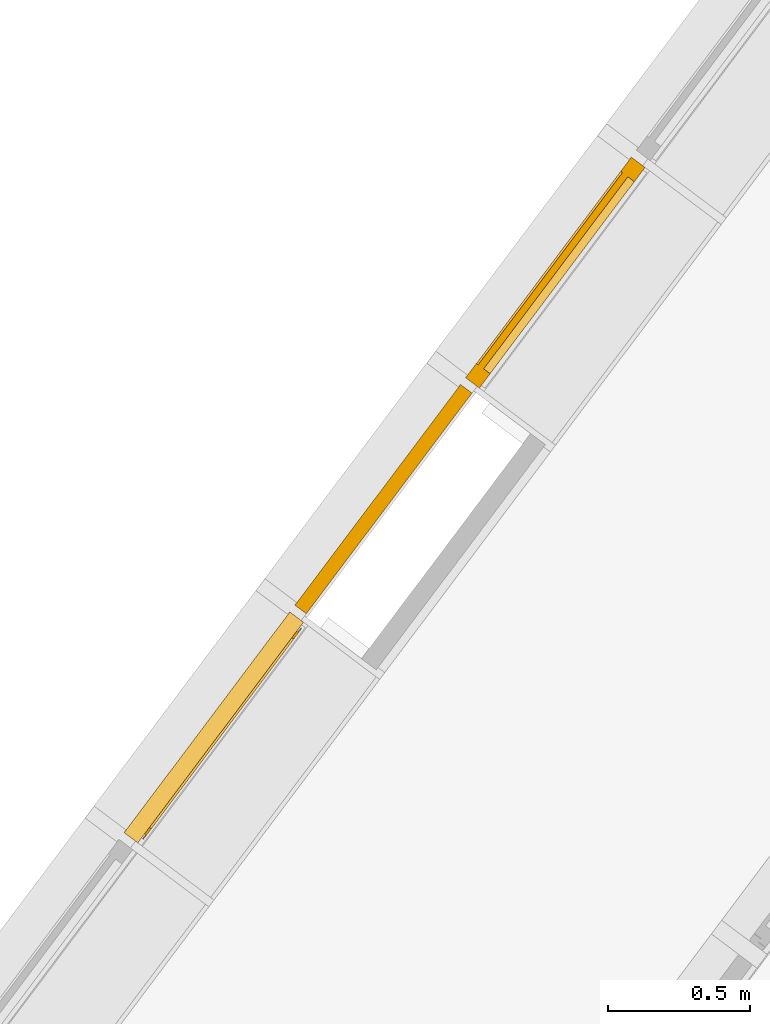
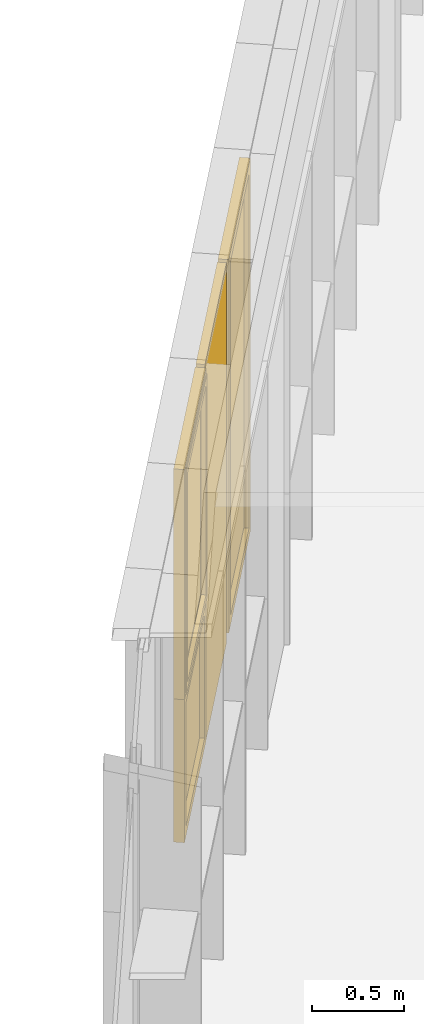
# One storey, part 162 of 243: 4 windows, 1 element without a shape of its own.
"""IFC2X3 building model written with IfcOpenShell, lengths in metres."""

from ifc_helpers import new_model, entity, si_unit, converted_unit, derived_unit, direction, frame, origin, origin_2d_with_axis, place, context, subcontext, project, spatial, polyline, rectangle, outline, extrude, faceted_brep, source, transform, mapped, material, material_list, type_object, type_shapes, element, aggregate, save


model = new_model("IFC2X3")

# Units and contexts
model_context = context("Model", 3, precision=1e-05, world=origin(), true_north=direction((6.123031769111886e-17, 1.0)))
body_context = subcontext(model_context, "Body", "Model", "MODEL_VIEW")
ifc_project = project(units=[si_unit("LENGTHUNIT", "METRE"), si_unit("AREAUNIT", "SQUARE_METRE"), si_unit("VOLUMEUNIT", "CUBIC_METRE"), converted_unit("PLANEANGLEUNIT", "DEGREE", entity("IfcRatioMeasure", 0.017453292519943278), si_unit("PLANEANGLEUNIT", "RADIAN"), dimensions=[0, 0, 0, 0, 0, 0, 0]), si_unit("MASSUNIT", "GRAM", prefix="KILO"), derived_unit("MASSDENSITYUNIT", [(si_unit("MASSUNIT", "GRAM", prefix="KILO"), 1), (si_unit("LENGTHUNIT", "METRE"), -3)]), derived_unit("IONCONCENTRATIONUNIT", [(si_unit("MASSUNIT", "GRAM", prefix="KILO"), 1), (si_unit("LENGTHUNIT", "METRE"), -3)]), derived_unit("MOMENTOFINERTIAUNIT", [(si_unit("LENGTHUNIT", "METRE"), 4)]), si_unit("TIMEUNIT", "SECOND"), si_unit("FREQUENCYUNIT", "HERTZ"), si_unit("THERMODYNAMICTEMPERATUREUNIT", "DEGREE_CELSIUS"), derived_unit("THERMALTRANSMITTANCEUNIT", [(si_unit("MASSUNIT", "GRAM", prefix="KILO"), 1), (si_unit("THERMODYNAMICTEMPERATUREUNIT", "KELVIN"), -1), (si_unit("TIMEUNIT", "SECOND"), -3)]), derived_unit("THERMALCONDUCTANCEUNIT", [(si_unit("MASSUNIT", "GRAM", prefix="KILO"), 1), (si_unit("THERMODYNAMICTEMPERATUREUNIT", "KELVIN"), -1), (si_unit("TIMEUNIT", "SECOND"), -3), (si_unit("LENGTHUNIT", "METRE"), 1)]), derived_unit("VOLUMETRICFLOWRATEUNIT", [(si_unit("LENGTHUNIT", "METRE"), 3), (si_unit("TIMEUNIT", "SECOND"), -1)]), derived_unit("MASSFLOWRATEUNIT", [(si_unit("MASSUNIT", "GRAM", prefix="KILO"), 1), (si_unit("TIMEUNIT", "SECOND"), -1)]), derived_unit("ROTATIONALFREQUENCYUNIT", [(si_unit("TIMEUNIT", "SECOND"), -1)]), si_unit("ELECTRICCURRENTUNIT", "AMPERE"), si_unit("ELECTRICVOLTAGEUNIT", "VOLT"), si_unit("POWERUNIT", "WATT"), si_unit("FORCEUNIT", "NEWTON", prefix="KILO"), si_unit("ILLUMINANCEUNIT", "LUX"), si_unit("LUMINOUSFLUXUNIT", "LUMEN"), si_unit("LUMINOUSINTENSITYUNIT", "CANDELA"), derived_unit("USERDEFINED", [(si_unit("MASSUNIT", "GRAM", prefix="KILO"), -1), (si_unit("LENGTHUNIT", "METRE"), -2), (si_unit("TIMEUNIT", "SECOND"), 3), (si_unit("LUMINOUSFLUXUNIT", "LUMEN"), 1)]), derived_unit("USERDEFINED", [(si_unit("MASSUNIT", "GRAM", prefix="KILO"), 1), (si_unit("TIMEUNIT", "SECOND"), -3), (si_unit("LENGTHUNIT", "METRE"), 3), (si_unit("ELECTRICCURRENTUNIT", "AMPERE"), -2)]), derived_unit("SOUNDPOWERUNIT", [(si_unit("MASSUNIT", "GRAM", prefix="KILO"), 1), (si_unit("TIMEUNIT", "SECOND"), -3), (si_unit("LENGTHUNIT", "METRE"), 2)]), derived_unit("SOUNDPRESSUREUNIT", [(si_unit("MASSUNIT", "GRAM", prefix="KILO"), 1), (si_unit("LENGTHUNIT", "METRE"), -1), (si_unit("TIMEUNIT", "SECOND"), -2)]), derived_unit("LINEARVELOCITYUNIT", [(si_unit("LENGTHUNIT", "METRE"), 1), (si_unit("TIMEUNIT", "SECOND"), -1)]), si_unit("PRESSUREUNIT", "PASCAL"), derived_unit("USERDEFINED", [(si_unit("MASSUNIT", "GRAM", prefix="KILO"), 1), (si_unit("LENGTHUNIT", "METRE"), -2), (si_unit("TIMEUNIT", "SECOND"), -2)]), derived_unit("LINEARFORCEUNIT", [(si_unit("MASSUNIT", "GRAM", prefix="KILO"), 1), (si_unit("TIMEUNIT", "SECOND"), -2)]), derived_unit("PLANARFORCEUNIT", [(si_unit("MASSUNIT", "GRAM", prefix="KILO"), 1), (si_unit("LENGTHUNIT", "METRE"), -1), (si_unit("TIMEUNIT", "SECOND"), -2)]), derived_unit("SPECIFICHEATCAPACITYUNIT", [(si_unit("THERMODYNAMICTEMPERATUREUNIT", "KELVIN"), -1), (si_unit("LENGTHUNIT", "METRE"), 2), (si_unit("TIMEUNIT", "SECOND"), -2)]), derived_unit("HEATINGVALUEUNIT", [(si_unit("LENGTHUNIT", "METRE"), 2), (si_unit("TIMEUNIT", "SECOND"), -2)]), derived_unit("VAPORPERMEABILITYUNIT", [(si_unit("LENGTHUNIT", "METRE"), -1), (si_unit("TIMEUNIT", "SECOND"), 1)]), derived_unit("DYNAMICVISCOSITYUNIT", [(si_unit("MASSUNIT", "GRAM", prefix="KILO"), 1), (si_unit("TIMEUNIT", "SECOND"), -1), (si_unit("LENGTHUNIT", "METRE"), -1)]), derived_unit("THERMALEXPANSIONCOEFFICIENTUNIT", [(si_unit("THERMODYNAMICTEMPERATUREUNIT", "KELVIN"), -1)]), derived_unit("MODULUSOFELASTICITYUNIT", [(si_unit("MASSUNIT", "GRAM", prefix="KILO"), 1), (si_unit("LENGTHUNIT", "METRE"), -1), (si_unit("TIMEUNIT", "SECOND"), -2)]), derived_unit("ISOTHERMALMOISTURECAPACITYUNIT", [(si_unit("LENGTHUNIT", "METRE"), 3), (si_unit("MASSUNIT", "GRAM", prefix="KILO"), -1)]), derived_unit("MOISTUREDIFFUSIVITYUNIT", [(si_unit("TIMEUNIT", "SECOND"), -1), (si_unit("LENGTHUNIT", "METRE"), 2)])], contexts=[model_context])

# Site, building, storey
site_placement = place(None, frame((0.0, 0.0, 235.0), z_axis=(0.0, 0.0, 1.0), x_axis=(-0.7996477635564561, 0.6004693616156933, 0.0)))
site = spatial("IfcSite", under=ifc_project, at=site_placement, Name="Default", CompositionType="ELEMENT")
building_placement = place(site_placement, origin())
building = spatial("IfcBuilding", under=site, at=building_placement, CompositionType="ELEMENT")
storey_placement = place(building_placement, origin())
storey = spatial("IfcBuildingStorey", under=building, at=storey_placement, Name="P0- Escola", CompositionType="ELEMENT", Elevation=0.0)

# Curtain wall, windows
curtain_wall_type = type_object("IfcCurtainWallType", Name="Muro cortina:MC- EXT- MC5", PredefinedType="NOTDEFINED")
curtain_wall_placement = place(storey_placement, origin())
curtain_wall = element("IfcCurtainWall", 1, at=curtain_wall_placement, inside=storey, type_object=curtain_wall_type, Name="Muro cortina:MC- EXT- MC5", ObjectType="Muro cortina:MC- EXT- MC5")
ifc_material_1 = material(Name="_Vidre")
ifc_material_2 = material(Name="_Alumini- T1- Perfil")
ifc_material_list_1 = material_list([ifc_material_1, ifc_material_2])
window_style_1 = type_object("IfcWindowStyle", Name="MC- Alu- Conjunt vidre fix- 62x60 cm:MC- Alu- Conjunt vidre fix- 62x60 cm", ConstructionType="NOTDEFINED", OperationType="NOTDEFINED", ParameterTakesPrecedence=False, Sizeable=False, material=ifc_material_list_1)
shared_shape_1 = source(origin(), body_context, "Body", "Brep", [
    faceted_brep([(-0.4361932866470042, -0.007600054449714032, 0.048806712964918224), (0.4361932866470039, -0.007600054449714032, 0.048806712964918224), (0.4361932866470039, -0.03160022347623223, 0.048806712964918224), (-0.4361932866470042, -0.03160022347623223, 0.048806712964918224), (-0.4361932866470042, -0.007600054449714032, 0.8987), (0.4361932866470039, -0.007600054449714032, 0.8987), (0.4361932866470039, -0.03160022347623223, 0.8987), (-0.4361932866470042, -0.03160022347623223, 0.8987)], [[[0, 1, 2, 3]], [[4, 5, 1, 0]], [[5, 6, 2, 1]], [[6, 7, 3, 2]], [[7, 4, 0, 3]], [[4, 7, 6, 5]]]),
    faceted_brep([(-0.4849999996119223, -0.05999999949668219, 0.9477000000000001), (-0.4849999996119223, 0.0, 0.9477000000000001), (-0.4849999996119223, 0.0, 0.0), (-0.4849999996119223, -0.05999999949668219, 0.0), (-0.4221931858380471, 0.0, 0.8848931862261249), (-0.4221931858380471, 0.0, 0.06280681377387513), (0.42219318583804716, 0.0, 0.06280681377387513), (0.42219318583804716, 0.0, 0.8848931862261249), (0.4849999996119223, 0.0, 0.9477000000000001), (0.4849999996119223, 0.0, 0.0), (0.4849999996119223, -0.05999999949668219, 0.0), (0.4849999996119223, -0.05999999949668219, 0.9477000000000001), (0.42219603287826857, -0.05999999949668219, 0.8848960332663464), (0.42219603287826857, -0.05999999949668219, 0.0628039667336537), (-0.42219603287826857, -0.05999999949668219, 0.0628039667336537), (-0.42219603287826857, -0.05999999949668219, 0.8848960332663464), (-0.42219603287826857, -0.03160022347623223, 0.8848960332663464), (-0.4221960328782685, -0.03160022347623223, 0.0628039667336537), (0.4221960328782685, -0.03160022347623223, 0.06280396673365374), (0.42219603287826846, -0.03160022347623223, 0.8848960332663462), (0.43619328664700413, -0.03160022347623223, 0.8988932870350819), (0.43619328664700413, -0.03160022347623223, 0.048806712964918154), (-0.43619328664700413, -0.03160022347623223, 0.04880671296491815), (-0.43619328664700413, -0.03160022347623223, 0.8988932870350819), (-0.43619328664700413, -0.007600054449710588, 0.8988932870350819), (-0.43619328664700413, -0.007600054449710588, 0.04880671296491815), (0.43619328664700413, -0.007600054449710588, 0.048806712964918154), (0.43619328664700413, -0.007600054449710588, 0.8988932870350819), (0.42219318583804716, -0.007600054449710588, 0.8848931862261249), (0.42219318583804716, -0.007600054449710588, 0.0628068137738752), (-0.42219318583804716, -0.007600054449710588, 0.06280681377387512), (-0.42219318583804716, -0.007600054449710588, 0.8848931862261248)], [[[0, 1, 2, 3]], [[4, 5, 6, 7], [8, 9, 2, 1]], [[3, 2, 9, 10]], [[0, 3, 10, 11], [12, 13, 14, 15]], [[16, 15, 14, 17]], [[17, 14, 13, 18]], [[16, 17, 18, 19], [20, 21, 22, 23]], [[24, 23, 22, 25]], [[25, 22, 21, 26]], [[24, 25, 26, 27], [28, 29, 30, 31]], [[4, 31, 30, 5]], [[5, 30, 29, 6]], [[10, 9, 8, 11]], [[18, 13, 12, 19]], [[26, 21, 20, 27]], [[6, 29, 28, 7]], [[11, 8, 1, 0]], [[19, 12, 15, 16]], [[27, 20, 23, 24]], [[7, 28, 31, 4]]], outer=[[True], [False, True], [True], [True, False], [True], [True], [False, True], [True], [True], [True, False], [True], [True], [True], [True], [True], [True], [True], [True], [True], [True]]),
])
type_shapes(window_style_1, [shared_shape_1])
window_1_placement = place(curtain_wall_placement, frame((36.6451476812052, -23.91519175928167, 0.03229999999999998), z_axis=(0.0, 0.0, 1.0), x_axis=(0.0, -1.0, 0.0)))
window_1 = element("IfcWindow", 2, at=window_1_placement, type_object=window_style_1, material=ifc_material_list_1, Name="MC- Alu- Conjunt vidre fix- 62x60 cm:MC- Alu- Conjunt vidre fix- 62x60 cm", ObjectType="MC- Alu- Conjunt vidre fix- 62x60 cm:MC- Alu- Conjunt vidre fix- 62x60 cm", OverallHeight=0.9477000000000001, OverallWidth=0.9699999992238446, context=body_context, shape_type="MappedRepresentation", body=[
    mapped(shared_shape_1, transform((0.0, 0.0, 0.0), scale=1.0)),
])
ifc_material_3 = material(Name="<Unnamed>")
ifc_material_list_2 = material_list([ifc_material_3, ifc_material_1, ifc_material_2])
window_style_2 = type_object("IfcWindowStyle", Name="MC- Alu- Conjunt vidre fix revestiment:MC- Alu- Conjunt vidre fix revestiment", ConstructionType="NOTDEFINED", OperationType="NOTDEFINED", ParameterTakesPrecedence=False, Sizeable=False, material=ifc_material_list_2)
shared_shape_2 = source(origin(), body_context, "Body", "SweptSolid", [
    extrude(rectangle(XDim=0.9599999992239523, YDim=0.039999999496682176, at=origin_2d_with_axis()), frame((0.0, -0.02999999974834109, 0.0050000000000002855), z_axis=(0.0, 0.0, 1.0), x_axis=(-1.0, 0.0, 0.0)), (0.0, 0.0, 1.0), 2.5137499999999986),
    extrude(rectangle(XDim=0.9699999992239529, YDim=0.010000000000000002, at=origin_2d_with_axis()), frame((0.0, -0.005000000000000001, 0.0), z_axis=(0.0, 0.0, 1.0), x_axis=(-1.0, 0.0, 0.0)), (0.0, 0.0, 1.0), 2.5237499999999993),
    extrude(outline(polyline([(-1.2618749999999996, -0.48499999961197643), (1.2618749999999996, -0.48499999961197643), (1.2618749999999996, 0.48499999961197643), (-1.2618749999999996, 0.48499999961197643), (-1.2618749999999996, -0.48499999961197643)]), holes=[polyline([(-1.2568749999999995, 0.47999999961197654), (1.2568749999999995, 0.47999999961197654), (1.2568749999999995, -0.47999999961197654), (-1.2568749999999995, -0.4799999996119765), (-1.2568749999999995, 0.47999999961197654)])]), frame((0.0, -0.010000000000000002, 1.2618749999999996), z_axis=(0.0, -1.0, 0.0), x_axis=(0.0, 0.0, -1.0)), (0.0, 0.0, 1.0), 0.03999999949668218),
])
type_shapes(window_style_2, [shared_shape_2])
window_2_placement = place(curtain_wall_placement, frame((36.64514768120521, -24.91519175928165, -0.02), z_axis=(0.0, 0.0, 1.0), x_axis=(0.0, -1.0, 0.0)))
window_2 = element("IfcWindow", 3, at=window_2_placement, type_object=window_style_2, material=ifc_material_list_2, Name="MC- Alu- Conjunt vidre fix revestiment:MC- Alu- Conjunt vidre fix revestiment", ObjectType="MC- Alu- Conjunt vidre fix revestiment:MC- Alu- Conjunt vidre fix revestiment", OverallHeight=2.5237499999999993, OverallWidth=0.969999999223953, context=body_context, shape_type="MappedRepresentation", body=[
    mapped(shared_shape_2, transform((0.0, 0.0, 0.0), scale=1.0)),
])
window_style_3 = type_object("IfcWindowStyle", Name="MC- Alu- Conjunt vidre fix- 62x60 cm:MC- Alu- Conjunt vidre fix- 62x60 cm", ConstructionType="NOTDEFINED", OperationType="NOTDEFINED", ParameterTakesPrecedence=False, Sizeable=False, material=ifc_material_list_1)
shared_shape_3 = source(origin(), body_context, "Body", "Brep", [
    faceted_brep([(0.43619328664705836, -0.007600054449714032, 0.048806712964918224), (0.43619328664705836, -0.03160022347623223, 0.048806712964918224), (-0.4361932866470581, -0.03160022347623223, 0.048806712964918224), (-0.4361932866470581, -0.007600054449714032, 0.048806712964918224), (0.43619328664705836, -0.007600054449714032, 2.422449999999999), (-0.4361932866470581, -0.007600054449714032, 2.422449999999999), (-0.4361932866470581, -0.03160022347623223, 2.422449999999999), (0.43619328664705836, -0.03160022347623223, 2.422449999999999)], [[[0, 1, 2, 3]], [[4, 0, 3, 5]], [[5, 3, 2, 6]], [[6, 2, 1, 7]], [[7, 1, 0, 4]], [[4, 5, 6, 7]]]),
    faceted_brep([(0.48499999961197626, -0.05999999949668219, 2.471449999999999), (0.48499999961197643, -0.05999999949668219, 0.0), (0.48499999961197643, 0.0, 0.0), (0.48499999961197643, 0.0, 2.471449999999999), (-0.48499999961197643, 0.0, 2.471449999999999), (-0.48499999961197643, 0.0, 0.0), (0.4221931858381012, 0.0, 2.408643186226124), (-0.4221931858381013, 0.0, 2.408643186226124), (-0.4221931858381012, 0.0, 0.06280681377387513), (0.4221931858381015, 0.0, 0.06280681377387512), (-0.48499999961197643, -0.05999999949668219, 0.0), (-0.4849999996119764, -0.05999999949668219, 2.471449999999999), (-0.4221960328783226, -0.05999999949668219, 2.4086460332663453), (0.4221960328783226, -0.05999999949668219, 2.4086460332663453), (0.4221960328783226, -0.05999999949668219, 0.06280396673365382), (-0.4221960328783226, -0.05999999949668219, 0.06280396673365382), (0.42219603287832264, -0.03160022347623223, 2.4086460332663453), (0.4221960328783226, -0.03160022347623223, 0.06280396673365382), (-0.4221960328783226, -0.03160022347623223, 0.06280396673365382), (-0.4221960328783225, -0.03160022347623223, 2.4086460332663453), (-0.43619328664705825, -0.03160022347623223, 2.422643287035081), (0.43619328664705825, -0.03160022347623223, 2.422643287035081), (0.43619328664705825, -0.03160022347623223, 0.048806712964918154), (-0.43619328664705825, -0.03160022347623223, 0.04880671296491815), (0.43619328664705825, -0.007600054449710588, 2.422643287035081), (0.4361932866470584, -0.007600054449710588, 0.04880671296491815), (-0.43619328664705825, -0.007600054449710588, 0.048806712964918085), (-0.43619328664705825, -0.007600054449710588, 2.422643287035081), (-0.4221931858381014, -0.007600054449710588, 2.408643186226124), (0.4221931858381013, -0.007600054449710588, 2.408643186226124), (0.4221931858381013, -0.007600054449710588, 0.06280681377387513), (-0.4221931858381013, -0.007600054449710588, 0.06280681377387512)], [[[0, 1, 2, 3]], [[4, 3, 2, 5], [6, 7, 8, 9]], [[1, 10, 5, 2]], [[0, 11, 10, 1], [12, 13, 14, 15]], [[16, 17, 14, 13]], [[17, 18, 15, 14]], [[16, 19, 18, 17], [20, 21, 22, 23]], [[24, 25, 22, 21]], [[25, 26, 23, 22]], [[24, 27, 26, 25], [28, 29, 30, 31]], [[6, 9, 30, 29]], [[9, 8, 31, 30]], [[10, 11, 4, 5]], [[18, 19, 12, 15]], [[26, 27, 20, 23]], [[8, 7, 28, 31]], [[11, 0, 3, 4]], [[19, 16, 13, 12]], [[27, 24, 21, 20]], [[7, 6, 29, 28]]], outer=[[True], [True, False], [True], [True, False], [True], [True], [False, True], [True], [True], [True, False], [True], [True], [True], [True], [True], [True], [True], [True], [True], [True]]),
])
type_shapes(window_style_3, [shared_shape_3])
window_3_placement = place(curtain_wall_placement, frame((36.64514768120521, -25.915191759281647, 0.03229999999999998), z_axis=(0.0, 0.0, 1.0), x_axis=(0.0, -1.0, 0.0)))
window_3 = element("IfcWindow", 4, at=window_3_placement, type_object=window_style_3, material=ifc_material_list_1, Name="MC- Alu- Conjunt vidre fix- 62x60 cm:MC- Alu- Conjunt vidre fix- 62x60 cm", ObjectType="MC- Alu- Conjunt vidre fix- 62x60 cm:MC- Alu- Conjunt vidre fix- 62x60 cm", OverallHeight=2.471449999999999, OverallWidth=0.969999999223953, context=body_context, shape_type="MappedRepresentation", body=[
    mapped(shared_shape_3, transform((0.0, 0.0, 0.0), scale=1.0)),
])
window_style_4 = type_object("IfcWindowStyle", Name="MC- Alu- Conjunt finestra basculant- 68x68 cm:MC- Alu- Conjunt finestra basculant- 68x68 cm", ConstructionType="NOTDEFINED", OperationType="NOTDEFINED", ParameterTakesPrecedence=False, Sizeable=False, material=ifc_material_list_1)
shared_shape_4 = source(origin(), body_context, "Body", "Brep", [
    faceted_brep([(-0.4329117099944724, -0.03559830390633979, 0.051999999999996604), (-0.43291170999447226, -0.011598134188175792, 0.051999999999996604), (0.4329117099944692, -0.011598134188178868, 0.051999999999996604), (0.43291170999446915, -0.03559830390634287, 0.051999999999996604), (-0.4329117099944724, -0.03559830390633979, 1.4715527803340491), (-0.4329117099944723, -0.011598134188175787, 1.4715527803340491), (0.4329117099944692, -0.011598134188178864, 1.4715527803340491), (0.43291170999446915, -0.03559830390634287, 1.4715527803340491)], [[[0, 1, 2, 3]], [[4, 5, 1, 0]], [[5, 6, 2, 1]], [[6, 7, 3, 2]], [[7, 4, 0, 3]], [[4, 7, 6, 5]]]),
    faceted_brep([(0.4172108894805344, -0.009998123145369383, 1.4558519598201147), (0.4172108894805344, -0.007998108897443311, 1.4558519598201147), (0.4172108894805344, -0.007998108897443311, 0.06789804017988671), (0.41721088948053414, -0.009998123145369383, 0.06789804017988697), (0.44610892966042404, -0.007998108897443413, 1.4847500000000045), (0.44610892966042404, -0.007998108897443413, 0.03899999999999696), (-0.44610892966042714, -0.007998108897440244, 0.03899999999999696), (-0.44610892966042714, -0.007998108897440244, 1.4847500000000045), (-0.41721088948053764, -0.007998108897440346, 1.4558519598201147), (-0.41721088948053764, -0.007998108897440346, 0.06789804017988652), (-0.41721088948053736, -0.009998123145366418, 0.06789804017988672), (-0.41721088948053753, -0.009998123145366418, 1.4558519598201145), (-0.4329117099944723, -0.00999812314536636, 1.4715527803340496), (-0.4329117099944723, -0.009998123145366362, 0.05219721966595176), (0.4329117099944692, -0.009998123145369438, 0.05219721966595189), (0.4329117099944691, -0.009998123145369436, 1.4715527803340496), (0.4329117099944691, -0.04079986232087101, 1.4715527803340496), (0.4329117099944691, -0.04079986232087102, 0.05219721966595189), (-0.4329117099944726, -0.04079986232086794, 0.05219721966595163), (-0.4329117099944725, -0.04079986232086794, 1.4715527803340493), (-0.4172108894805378, -0.040799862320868, 1.4558519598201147), (-0.4172108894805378, -0.040799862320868, 0.06789804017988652), (0.41721088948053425, -0.04079986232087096, 0.06789804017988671), (0.41721088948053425, -0.04079986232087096, 1.4558519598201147), (0.41721088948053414, -0.06800005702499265, 1.4558519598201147), (0.4172108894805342, -0.06800005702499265, 0.06789804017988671), (-0.41721088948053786, -0.0680000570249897, 0.06789804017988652), (-0.41721088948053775, -0.0680000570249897, 1.4558519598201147), (-0.4636128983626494, -0.06800005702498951, 1.5022539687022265), (-0.4636128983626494, -0.06800005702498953, 0.021496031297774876), (0.4636128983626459, -0.06800005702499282, 0.021496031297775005), (0.4636128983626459, -0.06800005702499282, 1.5022539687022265), (0.4636128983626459, -0.0645000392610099, 1.5022539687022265), (0.4636128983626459, -0.0645000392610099, 0.021496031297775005), (-0.4636128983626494, -0.06450003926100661, 0.021496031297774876), (-0.4636128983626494, -0.06450003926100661, 1.5022539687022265), (-0.44610892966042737, -0.06450003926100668, 1.4847500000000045), (-0.44610892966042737, -0.06450003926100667, 0.03899999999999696), (0.4461089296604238, -0.06450003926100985, 0.03899999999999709), (0.4461089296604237, -0.06450003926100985, 1.4847500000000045)], [[[0, 1, 2, 3]], [[4, 5, 6, 7], [8, 9, 2, 1]], [[3, 2, 9, 10]], [[0, 3, 10, 11], [12, 13, 14, 15]], [[16, 15, 14, 17]], [[17, 14, 13, 18]], [[16, 17, 18, 19], [20, 21, 22, 23]], [[24, 23, 22, 25]], [[25, 22, 21, 26]], [[24, 25, 26, 27], [28, 29, 30, 31]], [[32, 31, 30, 33]], [[33, 30, 29, 34]], [[32, 33, 34, 35], [36, 37, 38, 39]], [[4, 39, 38, 5]], [[5, 38, 37, 6]], [[10, 9, 8, 11]], [[18, 13, 12, 19]], [[26, 21, 20, 27]], [[34, 29, 28, 35]], [[6, 37, 36, 7]], [[11, 8, 1, 0]], [[19, 12, 15, 16]], [[27, 20, 23, 24]], [[35, 28, 31, 32]], [[7, 36, 39, 4]]], outer=[[True], [True, False], [True], [False, True], [True], [True], [True, False], [True], [True], [False, True], [True], [True], [True, False], [True], [True], [True], [True], [True], [True], [True], [True], [True], [True], [True], [True]]),
    faceted_brep([(-0.4221931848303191, 0.0, 1.4609431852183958), (-0.4221931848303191, -0.0040000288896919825, 1.4609431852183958), (-0.4221931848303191, -0.0040000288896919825, 0.06280681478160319), (-0.42219318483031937, 0.0, 0.06280681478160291), (-0.457599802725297, -0.0040000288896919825, 1.4963498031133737), (-0.457599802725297, -0.0040000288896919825, 0.02740019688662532), (0.457599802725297, -0.0040000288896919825, 0.02740019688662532), (0.457599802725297, -0.0040000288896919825, 1.4963498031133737), (0.422193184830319, -0.0040000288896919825, 1.4609431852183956), (0.4221931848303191, -0.0040000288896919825, 0.06280681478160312), (0.42219318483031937, 0.0, 0.06280681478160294), (0.4221931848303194, 0.0, 1.460943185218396), (0.4849999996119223, 0.0, 1.523749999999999), (0.4849999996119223, 0.0, 0.0), (-0.4849999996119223, 0.0, 0.0), (-0.4849999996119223, 0.0, 1.523749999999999), (-0.4849999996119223, -0.05999999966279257, 1.523749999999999), (-0.4849999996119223, -0.05999999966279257, 0.0), (0.4849999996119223, -0.05999999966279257, 0.0), (0.4849999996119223, -0.05999999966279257, 1.523749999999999), (0.4575998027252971, -0.05999999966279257, 1.4963498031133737), (0.4575998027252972, -0.05999999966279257, 0.027400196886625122), (-0.4575998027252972, -0.05999999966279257, 0.027400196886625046), (-0.4575998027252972, -0.05999999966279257, 1.496349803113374)], [[[0, 1, 2, 3]], [[4, 5, 6, 7], [8, 9, 2, 1]], [[3, 2, 9, 10]], [[0, 3, 10, 11], [12, 13, 14, 15]], [[16, 15, 14, 17]], [[17, 14, 13, 18]], [[16, 17, 18, 19], [20, 21, 22, 23]], [[4, 23, 22, 5]], [[5, 22, 21, 6]], [[10, 9, 8, 11]], [[18, 13, 12, 19]], [[6, 21, 20, 7]], [[11, 8, 1, 0]], [[19, 12, 15, 16]], [[7, 20, 23, 4]]], outer=[[True], [True, False], [True], [False, True], [True], [True], [True, False], [True], [True], [True], [True], [True], [True], [True], [True]]),
])
type_shapes(window_style_4, [shared_shape_4])
window_4_placement = place(curtain_wall_placement, frame((36.6451476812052, -23.915191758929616, 0.98), z_axis=(0.0, 0.0, 1.0), x_axis=(0.0, -1.0, 0.0)))
window_4 = element("IfcWindow", 5, at=window_4_placement, type_object=window_style_4, material=ifc_material_list_1, Name="MC- Alu- Conjunt finestra basculant- 68x68 cm:MC- Alu- Conjunt finestra basculant- 68x68 cm", ObjectType="MC- Alu- Conjunt finestra basculant- 68x68 cm:MC- Alu- Conjunt finestra basculant- 68x68 cm", OverallHeight=1.523749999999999, OverallWidth=0.9699999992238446, context=body_context, shape_type="MappedRepresentation", body=[
    mapped(shared_shape_4, transform((0.0, 0.0, 0.0), scale=1.0)),
])
aggregate(curtain_wall, [window_1, window_2, window_3, window_4])

save(model, "model.ifc")
